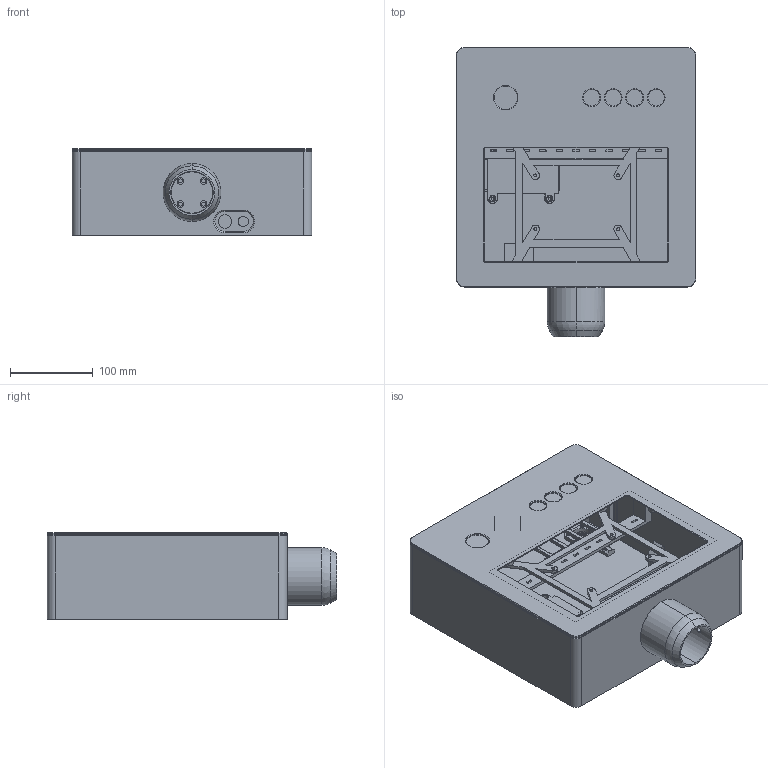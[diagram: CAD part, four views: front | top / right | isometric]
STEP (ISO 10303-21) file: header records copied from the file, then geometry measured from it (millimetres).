
FILE_DESCRIPTION (( 'STEP AP214' ), '1' );
FILE_NAME ('booth-000.STEP', '2026-05-02T06:27:06', ( '' ), ( '' ), 'SwSTEP 2.0', 'SolidWorks 2026', '' );
FILE_SCHEMA (( 'AUTOMOTIVE_DESIGN' ));
Length unit declared in the file: millimetre
Products named in the file (32): booth-100_002; booth-300; booth-100-000_017_small; booth-130_002; booth-140_001; booth-110_002; booth-100-000_020_small; booth-131; booth-130_001; booth-200_001_medium; booth-100_wigglecam+maincam; booth-100-150_001; booth-120_001; booth-410; booth-300_001; booth-200; booth-100-000_018; booth-192; booth-140_ws-10.1dp-caplcd; booth-300_002; booth-110_001; booth-100-000_017_big; booth-131_001; booth-110; booth-000; booth-310; booth-300_003; booth-100-000_020_big; booth-100_001_wigglecam-maincam; booth-410_002; booth-130; booth-120
Assembly tree (31 placements, depth 5):
  booth-000
    booth-100_wigglecam+maincam
      booth-100_001_wigglecam-maincam
      booth-100_002
      booth-110
        booth-110_001
        booth-110_002
      booth-120
        booth-120_001
      booth-130
        booth-130_001
        booth-130_002
        booth-131
          booth-131_001
      booth-140_ws-10.1dp-caplcd
        booth-140_001
      booth-100-000_017_small
      booth-100-000_020_small
      booth-100-000_017_big
      booth-100-000_020_big
      booth-192
        booth-100-150_001
      booth-100-000_018
    booth-200
      booth-200_001_medium
    booth-300
      booth-300_001
      booth-310
        booth-300_002
        booth-300_003
    booth-410
      booth-410_002
Bounding box: 290 x 350 x 105.25 mm (x, y, z)
Volume: 1228914.5 mm3; surface area: 727451.5 mm2
Topology: 20 solids, 20 shells, 2835 faces, 6847 edges, 4193 vertices
Faces by surface type: plane 1428, cylinder 876, cone 521, bspline 6, sphere 2, torus 2
Entity records: 83850 total; most frequent: CARTESIAN_POINT 15161, DIRECTION 14605, ORIENTED_EDGE 13674, EDGE_CURVE 6837, AXIS2_PLACEMENT_3D 5070, LINE 4465, VECTOR 4465, VERTEX_POINT 4193
